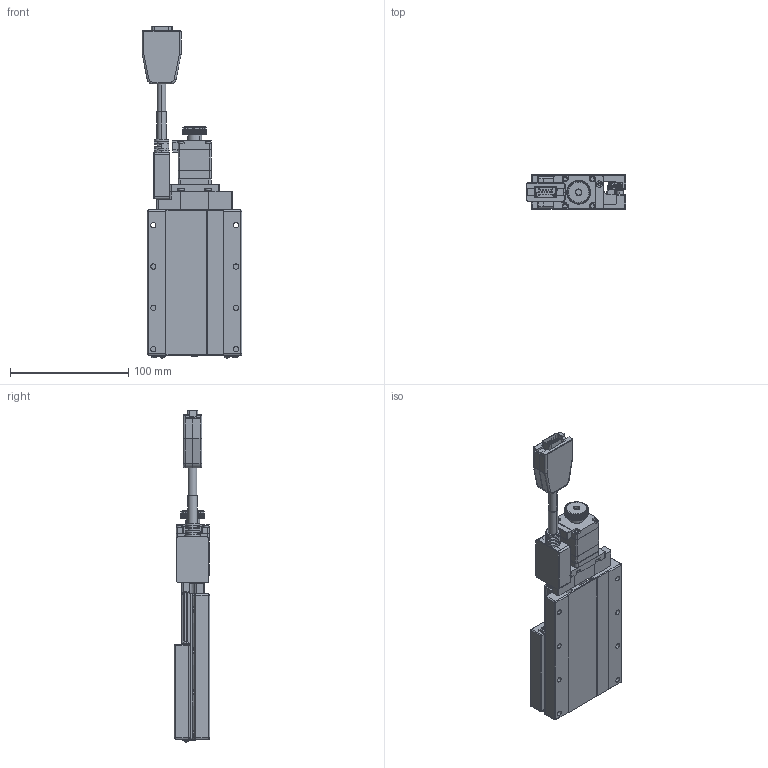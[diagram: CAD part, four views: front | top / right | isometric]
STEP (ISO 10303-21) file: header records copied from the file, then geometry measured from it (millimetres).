
FILE_DESCRIPTION (( 'STEP AP203' ), '1' );
FILE_NAME ('CXS8050-S2OP.STEP', '2024-10-14T01:54:24', ( '' ), ( '' ), 'SwSTEP 2.0', 'SolidWorks 2019', '' );
FILE_SCHEMA (( 'CONFIG_CONTROL_DESIGN' ));
Length unit declared in the file: millimetre
Products named in the file (8): AR39-A3P-10; Group2^CXS8050(28框無馬達)_defeature_GMT; CXS8050-S2OP; 馬達轉接板(28框用).step_GMT; SC2.5B006_SCM435(化鎳); PKP523BK_前12mm後10mm; Group1^CXS8050(28框無馬達)_defeature_GMT; CXS60-504
Assembly tree (10 placements, depth 2):
  CXS8050-S2OP
    Group1^CXS8050(28框無馬達)_defeature_GMT
    Group2^CXS8050(28框無馬達)_defeature_GMT
    馬達轉接板(28框用).step_GMT
    CXS60-504
    PKP523BK_前12mm後10mm
    AR39-A3P-10
    SC2.5B006_SCM435(化鎳)  x4
Bounding box: 84.5 x 30 x 281.2 mm (x, y, z)
Volume: 88572.5 mm3; surface area: 99774.2 mm2
Topology: 15 solids, 19 shells, 3291 faces, 8469 edges, 5338 vertices
Faces by surface type: plane 1658, cylinder 839, cone 273, torus 231, bspline 150, sphere 140
Entity records: 107036 total; most frequent: CARTESIAN_POINT 28613, ORIENTED_EDGE 16462, DIRECTION 15928, EDGE_CURVE 8231, AXIS2_PLACEMENT_3D 5840, VERTEX_POINT 5239, VECTOR 4248, LINE 4248
